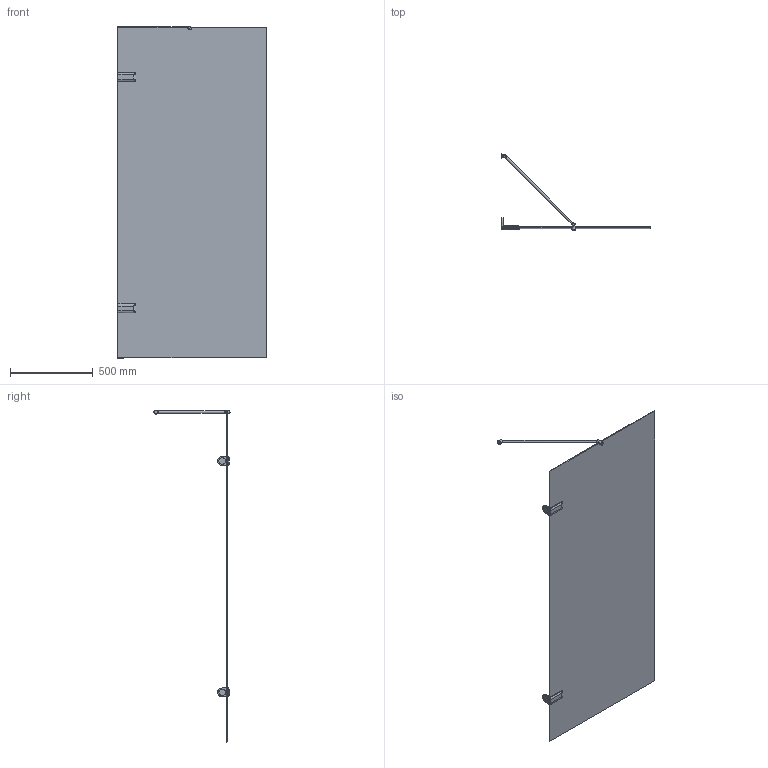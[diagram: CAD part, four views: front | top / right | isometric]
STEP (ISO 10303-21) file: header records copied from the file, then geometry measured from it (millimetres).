
FILE_DESCRIPTION(/* description */ (''),/* implementation_level */ '2;1');
FILE_NAME(/* name */ 'E:\Работа\Сергей\Душевые кабинки\! Работа\!!!!!!_2\TREND DOOR GK-861NB\TREND DOOR GK-861NA левая модель\TREND DOOR GK-861NA ЛЕВАЯ-3D.stp',/* time_stamp */ '2018-02-05T19:06:29+03:00',/* author */ ('PC'),/* organization */ (''),/* preprocessor_version */ 'ST-DEVELOPER v15.2',/* originating_system */ 'Autodesk Inventor 2014',/* authorisation */ '');
FILE_SCHEMA (('AUTOMOTIVE_DESIGN { 1 0 10303 214 3 1 1 }'));
Length unit declared in the file: millimetre
Products named in the file (1): TREND DOOR GK-861NA ЛЕВАЯ-3D
Bounding box: 900 x 461.76 x 2008.49 mm (x, y, z)
Volume: 11097058.7 mm3; surface area: 3683253.5 mm2
Topology: 3 solids, 3 shells, 133 faces, 326 edges, 205 vertices
Faces by surface type: plane 67, cylinder 30, bspline 18, torus 11, sphere 5, cone 2
Full cylindrical faces by diameter (mm): 15 x1, 20 x2, 26 x1, 40 x2
Entity records: 5237 total; most frequent: CARTESIAN_POINT 2130, ORIENTED_EDGE 594, DIRECTION 574, EDGE_CURVE 297, AXIS2_PLACEMENT_3D 205, VERTEX_POINT 201, EDGE_LOOP 164, LINE 164
